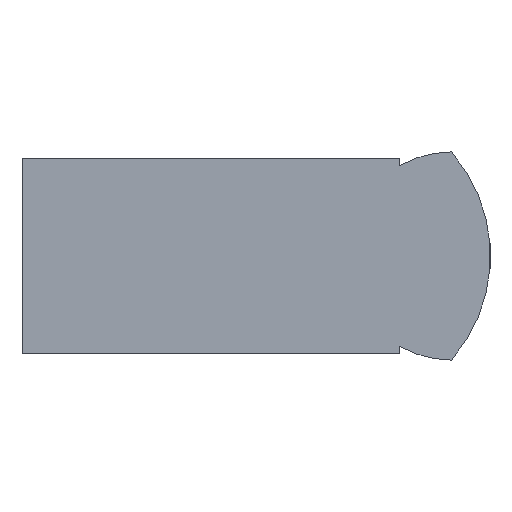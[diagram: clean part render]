
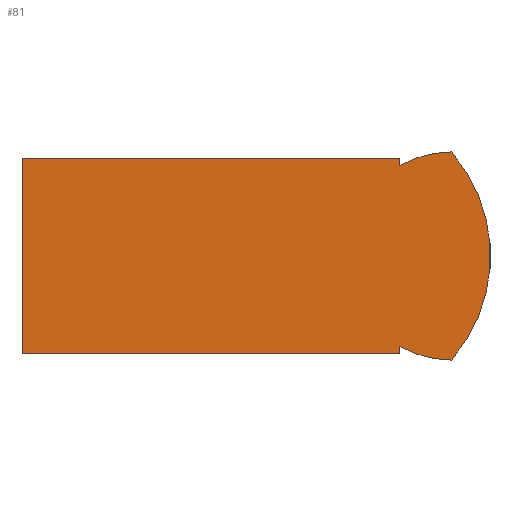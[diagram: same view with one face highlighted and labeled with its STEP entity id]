
A CAD part, left-side view. The second image highlights one B-rep face of the part: STEP entity #81.
In plain terms, the highlighted planar face has unit normal (-1, 0, 0).
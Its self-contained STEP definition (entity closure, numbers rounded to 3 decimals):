
#81 = ADVANCED_FACE( '', ( #163 ), #164, .F. );
#163 = FACE_OUTER_BOUND( '', #238, .T. );
#164 = PLANE( '', #239 );
#238 = EDGE_LOOP( '', ( #396, #397, #398, #399, #400, #401, #402, #403 ) );
#239 = AXIS2_PLACEMENT_3D( '', #404, #405, #406 );
#396 = ORIENTED_EDGE( '', *, *, #469, .F. );
#397 = ORIENTED_EDGE( '', *, *, #487, .T. );
#398 = ORIENTED_EDGE( '', *, *, #460, .T. );
#399 = ORIENTED_EDGE( '', *, *, #430, .F. );
#400 = ORIENTED_EDGE( '', *, *, #427, .F. );
#401 = ORIENTED_EDGE( '', *, *, #483, .T. );
#402 = ORIENTED_EDGE( '', *, *, #466, .F. );
#403 = ORIENTED_EDGE( '', *, *, #481, .F. );
#404 = CARTESIAN_POINT( '', ( -6., -28.416, 0. ) );
#405 = DIRECTION( '', ( 1., 0., 0. ) );
#406 = DIRECTION( '', ( 0., 0., -1. ) );
#427 = EDGE_CURVE( '', #496, #492, #498, .T. );
#430 = EDGE_CURVE( '', #492, #502, #503, .T. );
#460 = EDGE_CURVE( '', #551, #502, #552, .T. );
#466 = EDGE_CURVE( '', #557, #559, #560, .T. );
#469 = EDGE_CURVE( '', #562, #564, #565, .T. );
#481 = EDGE_CURVE( '', #564, #557, #580, .T. );
#483 = EDGE_CURVE( '', #496, #559, #582, .T. );
#487 = EDGE_CURVE( '', #562, #551, #586, .T. );
#492 = VERTEX_POINT( '', #591 );
#496 = VERTEX_POINT( '', #597 );
#498 = LINE( '', #600, #601 );
#502 = VERTEX_POINT( '', #605 );
#503 = LINE( '', #606, #607 );
#551 = VERTEX_POINT( '', #671 );
#552 = LINE( '', #672, #673 );
#557 = VERTEX_POINT( '', #680 );
#559 = VERTEX_POINT( '', #683 );
#560 = CIRCLE( '', #684, 8. );
#562 = VERTEX_POINT( '', #687 );
#564 = VERTEX_POINT( '', #690 );
#565 = CIRCLE( '', #691, 8. );
#580 = CIRCLE( '', #710, 12.167 );
#582 = LINE( '', #712, #713 );
#586 = LINE( '', #718, #719 );
#591 = CARTESIAN_POINT( '', ( -6., 0., -7.5 ) );
#597 = CARTESIAN_POINT( '', ( -6., -29., -7.5 ) );
#600 = CARTESIAN_POINT( '', ( -6., -29., -7.5 ) );
#601 = VECTOR( '', #725, 1000. );
#605 = CARTESIAN_POINT( '', ( -6., 0., 7.5 ) );
#606 = CARTESIAN_POINT( '', ( -6., 0., -7.5 ) );
#607 = VECTOR( '', #729, 1000. );
#671 = CARTESIAN_POINT( '', ( -6., -29., 7.5 ) );
#672 = CARTESIAN_POINT( '', ( -6., -29., 7.5 ) );
#673 = VECTOR( '', #764, 1000. );
#680 = CARTESIAN_POINT( '', ( -6., -33., -8. ) );
#683 = CARTESIAN_POINT( '', ( -6., -29., -6.928 ) );
#684 = AXIS2_PLACEMENT_3D( '', #768, #769, #770 );
#687 = CARTESIAN_POINT( '', ( -6., -29., 6.928 ) );
#690 = CARTESIAN_POINT( '', ( -6., -33., 8. ) );
#691 = AXIS2_PLACEMENT_3D( '', #773, #774, #775 );
#710 = AXIS2_PLACEMENT_3D( '', #786, #787, #788 );
#712 = CARTESIAN_POINT( '', ( -6., -29., -7.5 ) );
#713 = VECTOR( '', #789, 1000. );
#718 = CARTESIAN_POINT( '', ( -6., -29., -7.5 ) );
#719 = VECTOR( '', #791, 1000. );
#725 = DIRECTION( '', ( 0., 1., 0. ) );
#729 = DIRECTION( '', ( 0., 0., 1. ) );
#764 = DIRECTION( '', ( 0., 1., 0. ) );
#768 = CARTESIAN_POINT( '', ( -6., -33., 0. ) );
#769 = DIRECTION( '', ( 1., 0., 0. ) );
#770 = DIRECTION( '', ( 0., 0., -1. ) );
#773 = CARTESIAN_POINT( '', ( -6., -33., 0. ) );
#774 = DIRECTION( '', ( 1., 0., 0. ) );
#775 = DIRECTION( '', ( 0., 0., -1. ) );
#786 = CARTESIAN_POINT( '', ( -6., -23.833, 0. ) );
#787 = DIRECTION( '', ( 1., 0., 0. ) );
#788 = DIRECTION( '', ( 0., 0., -1. ) );
#789 = DIRECTION( '', ( 0., 0., 1. ) );
#791 = DIRECTION( '', ( 0., 0., 1. ) );
